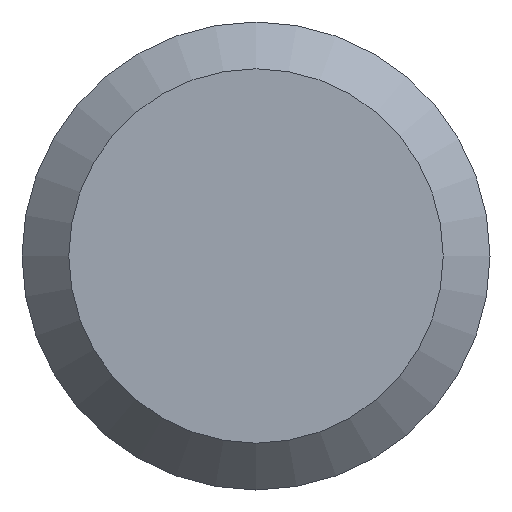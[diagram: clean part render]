
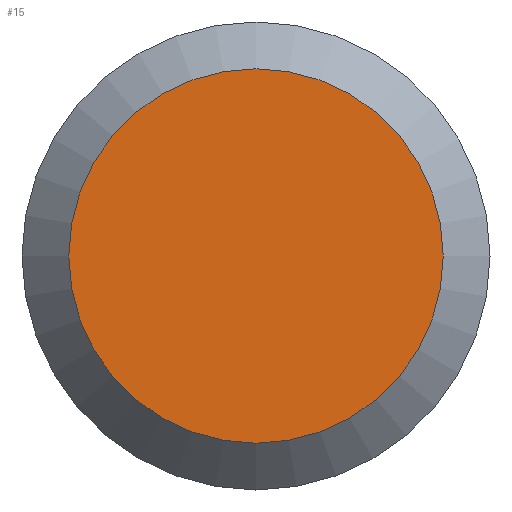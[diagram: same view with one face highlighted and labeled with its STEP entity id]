
A CAD part, left-side view. The second image highlights one B-rep face of the part: STEP entity #15.
In plain terms, the highlighted planar face has unit normal (-1, 0, 0).
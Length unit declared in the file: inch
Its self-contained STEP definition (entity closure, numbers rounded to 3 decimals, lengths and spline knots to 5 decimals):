
#3 = PLANE ( 'NONE',  #214 ) ;
#14 = DIRECTION ( 'NONE',  ( 1., 0., 0. ) ) ;
#15 = ADVANCED_FACE ( 'NONE', ( #33 ), #3, .F. ) ;
#33 = FACE_OUTER_BOUND ( 'NONE', #96, .T. ) ;
#34 = DIRECTION ( 'NONE',  ( 0., 0., -1. ) ) ;
#57 = ORIENTED_EDGE ( 'NONE', *, *, #160, .T. ) ;
#81 = AXIS2_PLACEMENT_3D ( 'NONE', #146, #97, #200 ) ;
#87 = CARTESIAN_POINT ( 'NONE',  ( 0., 0.02, 0. ) ) ;
#96 = EDGE_LOOP ( 'NONE', ( #57 ) ) ;
#97 = DIRECTION ( 'NONE',  ( -1., 0., 0. ) ) ;
#146 = CARTESIAN_POINT ( 'NONE',  ( 0., 0., 0. ) ) ;
#160 = EDGE_CURVE ( 'NONE', #215, #215, #172, .T. ) ;
#172 = CIRCLE ( 'NONE', #81, 0.016 ) ;
#200 = DIRECTION ( 'NONE',  ( 0., 0., -1. ) ) ;
#206 = CARTESIAN_POINT ( 'NONE',  ( 0., 0., -0.016 ) ) ;
#214 = AXIS2_PLACEMENT_3D ( 'NONE', #87, #14, #34 ) ;
#215 = VERTEX_POINT ( 'NONE', #206 ) ;
